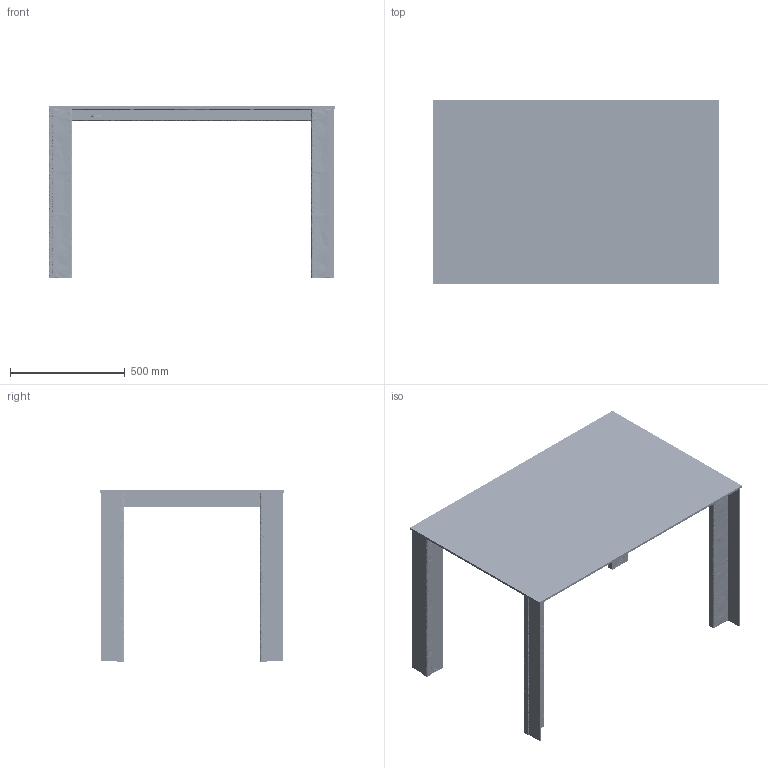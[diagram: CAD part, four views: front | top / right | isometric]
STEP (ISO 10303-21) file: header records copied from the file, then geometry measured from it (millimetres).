
FILE_DESCRIPTION(/* description */ (''),/* implementation_level */ '2;1');
FILE_NAME(/* name */ '10900 - Tale 125x80',/* time_stamp */ '2012-07-09T14:16:24+02:00',/* author */ (''),/* organization */ (''),/* preprocessor_version */ 'ST-DEVELOPER v10',/* originating_system */ '',/* authorisation */ '');
FILE_SCHEMA (('CONFIG_CONTROL_DESIGN'));
Length unit declared in the file: millimetre
Products named in the file (1): 1
Bounding box: 1250 x 800 x 748 mm (x, y, z)
Volume: 20370524.8 mm3; surface area: 6630274.9 mm2
Topology: 29 solids, 29 shells, 322 faces, 724 edges, 460 vertices
Faces by surface type: bspline 200, plane 122
Entity records: 21646 total; most frequent: CARTESIAN_POINT 16984, ORIENTED_EDGE 1416, EDGE_CURVE 708, VERTEX_POINT 460, EDGE_LOOP 414, B_SPLINE_CURVE_WITH_KNOTS 400, ADVANCED_FACE 322, FACE_OUTER_BOUND 322
